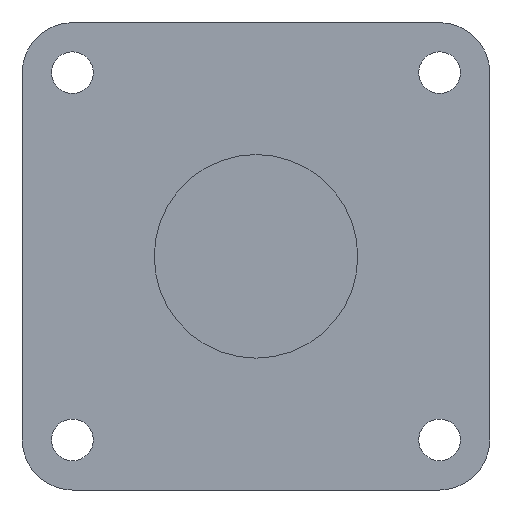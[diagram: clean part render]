
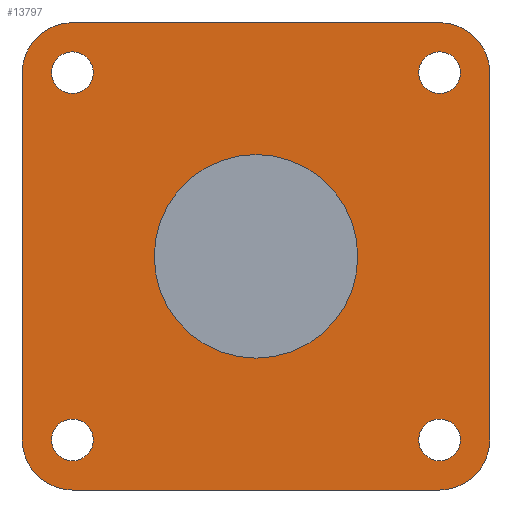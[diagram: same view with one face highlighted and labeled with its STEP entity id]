
A CAD part, left-side view. The second image highlights one B-rep face of the part: STEP entity #13797.
In plain terms, the highlighted planar face has unit normal (-1, 0, 0).
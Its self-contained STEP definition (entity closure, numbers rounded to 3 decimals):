
#12617=CARTESIAN_POINT('Line Origine',(-22.,0.,70.)) ;
#12621=CARTESIAN_POINT('Vertex',(-22.,55.,70.)) ;
#12623=CARTESIAN_POINT('Vertex',(-22.,-55.,70.)) ;
#13372=CARTESIAN_POINT('Vertex',(-22.,61.25,55.)) ;
#13375=CARTESIAN_POINT('Axis2P3D Location',(-22.,55.,55.)) ;
#13379=CARTESIAN_POINT('Vertex',(-22.,48.75,55.)) ;
#13394=CARTESIAN_POINT('Axis2P3D Location',(-22.,55.,55.)) ;
#13415=CARTESIAN_POINT('Vertex',(-22.,61.25,-55.)) ;
#13418=CARTESIAN_POINT('Axis2P3D Location',(-22.,55.,-55.)) ;
#13422=CARTESIAN_POINT('Vertex',(-22.,48.75,-55.)) ;
#13437=CARTESIAN_POINT('Axis2P3D Location',(-22.,55.,-55.)) ;
#13458=CARTESIAN_POINT('Vertex',(-22.,-61.25,-55.)) ;
#13461=CARTESIAN_POINT('Axis2P3D Location',(-22.,-55.,-55.)) ;
#13465=CARTESIAN_POINT('Vertex',(-22.,-48.75,-55.)) ;
#13480=CARTESIAN_POINT('Axis2P3D Location',(-22.,-55.,-55.)) ;
#13501=CARTESIAN_POINT('Vertex',(-22.,-61.25,55.)) ;
#13504=CARTESIAN_POINT('Axis2P3D Location',(-22.,-55.,55.)) ;
#13508=CARTESIAN_POINT('Vertex',(-22.,-48.75,55.)) ;
#13523=CARTESIAN_POINT('Axis2P3D Location',(-22.,-55.,55.)) ;
#13681=CARTESIAN_POINT('Vertex',(-22.,30.5,0.)) ;
#13684=CARTESIAN_POINT('Axis2P3D Location',(-22.,0.,0.)) ;
#13688=CARTESIAN_POINT('Vertex',(-22.,-30.5,0.)) ;
#13703=CARTESIAN_POINT('Axis2P3D Location',(-22.,0.,0.)) ;
#13715=CARTESIAN_POINT('Axis2P3D Location',(-22.,0.,0.)) ;
#13720=CARTESIAN_POINT('Axis2P3D Location',(-22.,55.,55.)) ;
#13724=CARTESIAN_POINT('Vertex',(-22.,70.,55.)) ;
#13727=CARTESIAN_POINT('Line Origine',(-22.,70.,0.)) ;
#13731=CARTESIAN_POINT('Vertex',(-22.,70.,-55.)) ;
#13734=CARTESIAN_POINT('Axis2P3D Location',(-22.,55.,-55.)) ;
#13738=CARTESIAN_POINT('Vertex',(-22.,55.,-70.)) ;
#13741=CARTESIAN_POINT('Line Origine',(-22.,0.,-70.)) ;
#13745=CARTESIAN_POINT('Vertex',(-22.,-55.,-70.)) ;
#13748=CARTESIAN_POINT('Axis2P3D Location',(-22.,-55.,-55.)) ;
#13752=CARTESIAN_POINT('Vertex',(-22.,-70.,-55.)) ;
#13755=CARTESIAN_POINT('Line Origine',(-22.,-70.,0.)) ;
#13759=CARTESIAN_POINT('Vertex',(-22.,-70.,55.)) ;
#13762=CARTESIAN_POINT('Axis2P3D Location',(-22.,-55.,55.)) ;
#12618=DIRECTION('Vector Direction',(0.,1.,0.)) ;
#13376=DIRECTION('Axis2P3D Direction',(1.,0.,0.)) ;
#13395=DIRECTION('Axis2P3D Direction',(1.,0.,0.)) ;
#13419=DIRECTION('Axis2P3D Direction',(1.,0.,0.)) ;
#13438=DIRECTION('Axis2P3D Direction',(1.,0.,0.)) ;
#13462=DIRECTION('Axis2P3D Direction',(1.,0.,0.)) ;
#13481=DIRECTION('Axis2P3D Direction',(1.,0.,0.)) ;
#13505=DIRECTION('Axis2P3D Direction',(1.,0.,0.)) ;
#13524=DIRECTION('Axis2P3D Direction',(1.,0.,0.)) ;
#13685=DIRECTION('Axis2P3D Direction',(-1.,-0.,0.)) ;
#13704=DIRECTION('Axis2P3D Direction',(-1.,-0.,0.)) ;
#13716=DIRECTION('Axis2P3D Direction',(1.,0.,0.)) ;
#13717=DIRECTION('Axis2P3D XDirection',(0.,1.,0.)) ;
#13721=DIRECTION('Axis2P3D Direction',(1.,0.,0.)) ;
#13728=DIRECTION('Vector Direction',(0.,0.,1.)) ;
#13735=DIRECTION('Axis2P3D Direction',(1.,0.,0.)) ;
#13742=DIRECTION('Vector Direction',(0.,-1.,0.)) ;
#13749=DIRECTION('Axis2P3D Direction',(1.,0.,0.)) ;
#13756=DIRECTION('Vector Direction',(0.,0.,-1.)) ;
#13763=DIRECTION('Axis2P3D Direction',(1.,0.,0.)) ;
#13377=AXIS2_PLACEMENT_3D('Circle Axis2P3D',#13375,#13376,$) ;
#13396=AXIS2_PLACEMENT_3D('Circle Axis2P3D',#13394,#13395,$) ;
#13420=AXIS2_PLACEMENT_3D('Circle Axis2P3D',#13418,#13419,$) ;
#13439=AXIS2_PLACEMENT_3D('Circle Axis2P3D',#13437,#13438,$) ;
#13463=AXIS2_PLACEMENT_3D('Circle Axis2P3D',#13461,#13462,$) ;
#13482=AXIS2_PLACEMENT_3D('Circle Axis2P3D',#13480,#13481,$) ;
#13506=AXIS2_PLACEMENT_3D('Circle Axis2P3D',#13504,#13505,$) ;
#13525=AXIS2_PLACEMENT_3D('Circle Axis2P3D',#13523,#13524,$) ;
#13686=AXIS2_PLACEMENT_3D('Circle Axis2P3D',#13684,#13685,$) ;
#13705=AXIS2_PLACEMENT_3D('Circle Axis2P3D',#13703,#13704,$) ;
#13718=AXIS2_PLACEMENT_3D('Plane Axis2P3D',#13715,#13716,#13717) ;
#13722=AXIS2_PLACEMENT_3D('Circle Axis2P3D',#13720,#13721,$) ;
#13736=AXIS2_PLACEMENT_3D('Circle Axis2P3D',#13734,#13735,$) ;
#13750=AXIS2_PLACEMENT_3D('Circle Axis2P3D',#13748,#13749,$) ;
#13764=AXIS2_PLACEMENT_3D('Circle Axis2P3D',#13762,#13763,$) ;
#13768=ORIENTED_EDGE('',*,*,#12625,.F.) ;
#13769=ORIENTED_EDGE('',*,*,#13726,.F.) ;
#13770=ORIENTED_EDGE('',*,*,#13733,.F.) ;
#13771=ORIENTED_EDGE('',*,*,#13740,.F.) ;
#13772=ORIENTED_EDGE('',*,*,#13747,.F.) ;
#13773=ORIENTED_EDGE('',*,*,#13754,.F.) ;
#13774=ORIENTED_EDGE('',*,*,#13761,.F.) ;
#13775=ORIENTED_EDGE('',*,*,#13766,.F.) ;
#13778=ORIENTED_EDGE('',*,*,#13690,.F.) ;
#13779=ORIENTED_EDGE('',*,*,#13707,.F.) ;
#13782=ORIENTED_EDGE('',*,*,#13510,.T.) ;
#13783=ORIENTED_EDGE('',*,*,#13527,.T.) ;
#13786=ORIENTED_EDGE('',*,*,#13467,.T.) ;
#13787=ORIENTED_EDGE('',*,*,#13484,.T.) ;
#13790=ORIENTED_EDGE('',*,*,#13424,.T.) ;
#13791=ORIENTED_EDGE('',*,*,#13441,.T.) ;
#13794=ORIENTED_EDGE('',*,*,#13381,.T.) ;
#13795=ORIENTED_EDGE('',*,*,#13398,.T.) ;
#13780=FACE_BOUND('',#13777,.T.) ;
#13784=FACE_BOUND('',#13781,.T.) ;
#13788=FACE_BOUND('',#13785,.T.) ;
#13792=FACE_BOUND('',#13789,.T.) ;
#13796=FACE_BOUND('',#13793,.T.) ;
#12619=VECTOR('Line Direction',#12618,1.) ;
#13729=VECTOR('Line Direction',#13728,1.) ;
#13743=VECTOR('Line Direction',#13742,1.) ;
#13757=VECTOR('Line Direction',#13756,1.) ;
#13797=ADVANCED_FACE('PartBody',(#13776,#13780,#13784,#13788,#13792,#13796),#13719,.F.) ;
#13378=CIRCLE('generated circle',#13377,6.25) ;
#13397=CIRCLE('generated circle',#13396,6.25) ;
#13421=CIRCLE('generated circle',#13420,6.25) ;
#13440=CIRCLE('generated circle',#13439,6.25) ;
#13464=CIRCLE('generated circle',#13463,6.25) ;
#13483=CIRCLE('generated circle',#13482,6.25) ;
#13507=CIRCLE('generated circle',#13506,6.25) ;
#13526=CIRCLE('generated circle',#13525,6.25) ;
#13687=CIRCLE('generated circle',#13686,30.5) ;
#13706=CIRCLE('generated circle',#13705,30.5) ;
#13723=CIRCLE('generated circle',#13722,15.) ;
#13737=CIRCLE('generated circle',#13736,15.) ;
#13751=CIRCLE('generated circle',#13750,15.) ;
#13765=CIRCLE('generated circle',#13764,15.) ;
#12625=EDGE_CURVE('',#12622,#12624,#12620,.F.) ;
#13381=EDGE_CURVE('',#13380,#13373,#13378,.T.) ;
#13398=EDGE_CURVE('',#13373,#13380,#13397,.T.) ;
#13424=EDGE_CURVE('',#13423,#13416,#13421,.T.) ;
#13441=EDGE_CURVE('',#13416,#13423,#13440,.T.) ;
#13467=EDGE_CURVE('',#13466,#13459,#13464,.T.) ;
#13484=EDGE_CURVE('',#13459,#13466,#13483,.T.) ;
#13510=EDGE_CURVE('',#13509,#13502,#13507,.T.) ;
#13527=EDGE_CURVE('',#13502,#13509,#13526,.T.) ;
#13690=EDGE_CURVE('',#13682,#13689,#13687,.T.) ;
#13707=EDGE_CURVE('',#13689,#13682,#13706,.T.) ;
#13726=EDGE_CURVE('',#13725,#12622,#13723,.T.) ;
#13733=EDGE_CURVE('',#13732,#13725,#13730,.T.) ;
#13740=EDGE_CURVE('',#13739,#13732,#13737,.T.) ;
#13747=EDGE_CURVE('',#13746,#13739,#13744,.F.) ;
#13754=EDGE_CURVE('',#13753,#13746,#13751,.T.) ;
#13761=EDGE_CURVE('',#13760,#13753,#13758,.T.) ;
#13766=EDGE_CURVE('',#12624,#13760,#13765,.T.) ;
#13767=EDGE_LOOP('',(#13768,#13769,#13770,#13771,#13772,#13773,#13774,#13775)) ;
#13777=EDGE_LOOP('',(#13778,#13779)) ;
#13781=EDGE_LOOP('',(#13782,#13783)) ;
#13785=EDGE_LOOP('',(#13786,#13787)) ;
#13789=EDGE_LOOP('',(#13790,#13791)) ;
#13793=EDGE_LOOP('',(#13794,#13795)) ;
#13776=FACE_OUTER_BOUND('',#13767,.T.) ;
#12620=LINE('Line',#12617,#12619) ;
#13730=LINE('Line',#13727,#13729) ;
#13744=LINE('Line',#13741,#13743) ;
#13758=LINE('Line',#13755,#13757) ;
#13719=PLANE('',#13718) ;
#12622=VERTEX_POINT('',#12621) ;
#12624=VERTEX_POINT('',#12623) ;
#13373=VERTEX_POINT('',#13372) ;
#13380=VERTEX_POINT('',#13379) ;
#13416=VERTEX_POINT('',#13415) ;
#13423=VERTEX_POINT('',#13422) ;
#13459=VERTEX_POINT('',#13458) ;
#13466=VERTEX_POINT('',#13465) ;
#13502=VERTEX_POINT('',#13501) ;
#13509=VERTEX_POINT('',#13508) ;
#13682=VERTEX_POINT('',#13681) ;
#13689=VERTEX_POINT('',#13688) ;
#13725=VERTEX_POINT('',#13724) ;
#13732=VERTEX_POINT('',#13731) ;
#13739=VERTEX_POINT('',#13738) ;
#13746=VERTEX_POINT('',#13745) ;
#13753=VERTEX_POINT('',#13752) ;
#13760=VERTEX_POINT('',#13759) ;
